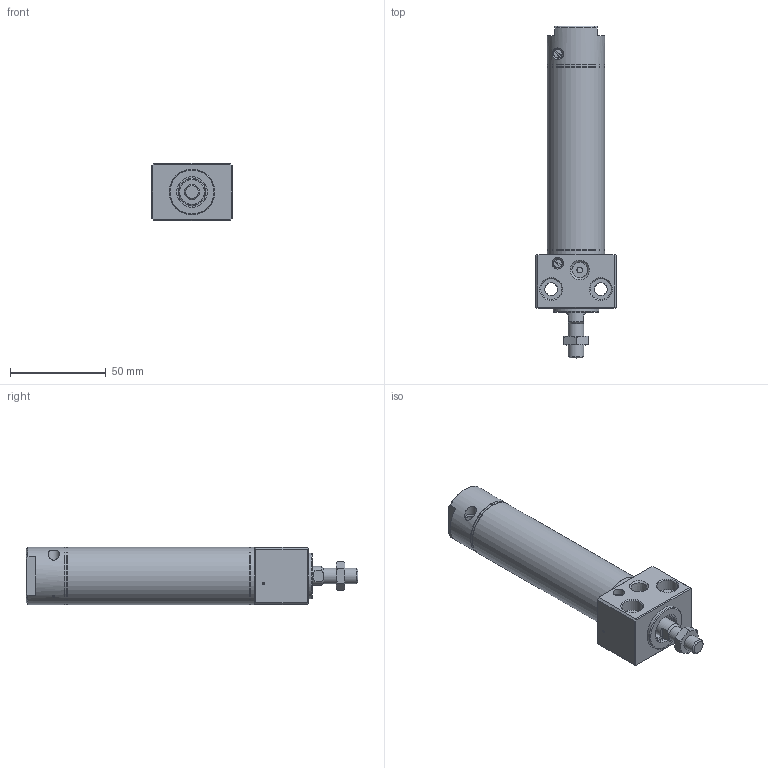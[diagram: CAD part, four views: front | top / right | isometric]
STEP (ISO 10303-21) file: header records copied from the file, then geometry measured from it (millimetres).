
FILE_DESCRIPTION((''),'2;1');
FILE_NAME('I:\3D電子目錄\氣缸\DBS\DBS\DBS25x50-C.stp','2007-10-08T08:34:09',('Administrator'),(''),'Autodesk Inventor 2008','Autodesk Inventor 2008','');
FILE_SCHEMA(('AUTOMOTIVE_DESIGN { 1 0 10303 214 1 1 1 1 }'));
Length unit declared in the file: millimetre
Products named in the file (1): DBS25x50-C
Bounding box: 42 x 173.6 x 30 mm (x, y, z)
Volume: 74732.9 mm3; surface area: 36921.5 mm2
Topology: 8 solids, 8 shells, 204 faces, 409 edges, 251 vertices
Faces by surface type: plane 90, cone 50, cylinder 48, bspline 13, torus 3
Full cylindrical faces by diameter (mm): 1.2 x1, 1.9 x2, 3 x3, 3.3 x2, 4.6 x2, 5 x3, 6 x3, 7 x1, 8 x2, 10 x1, 10.5 x1, 12 x1, 13 x2, 14 x1, 15.5 x2, 16 x2, 17 x1, 18 x2, 23 x2, 24 x1, 25 x1, 25.5 x2, 27.2 x6, 30 x4
Entity records: 5257 total; most frequent: CARTESIAN_POINT 1377, DIRECTION 812, ORIENTED_EDGE 622, AXIS2_PLACEMENT_3D 359, EDGE_LOOP 349, EDGE_CURVE 311, VERTEX_POINT 242, FACE_OUTER_BOUND 204
